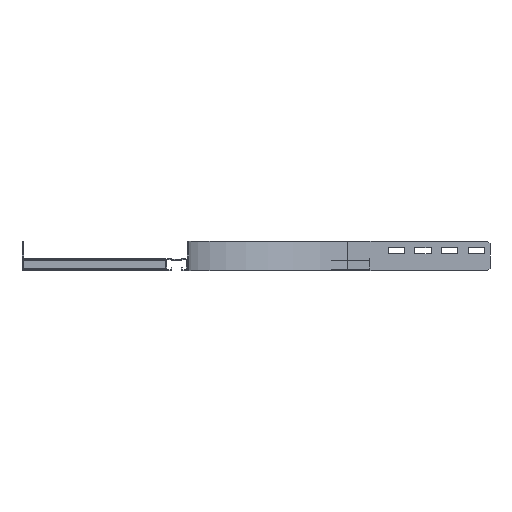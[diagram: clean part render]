
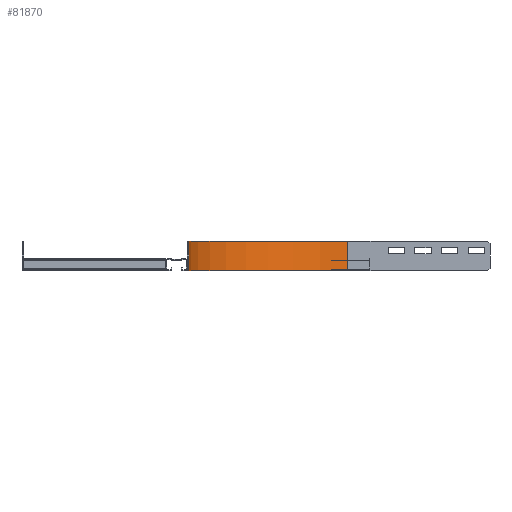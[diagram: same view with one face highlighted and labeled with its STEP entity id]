
A CAD part, left-side view. The second image highlights one B-rep face of the part: STEP entity #81870.
In plain terms, the highlighted cylindrical face has radius 297 mm (diameter 594 mm), a partial arc.
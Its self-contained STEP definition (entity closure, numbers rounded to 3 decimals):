
#69680=CARTESIAN_POINT('',(297.,-300.,-90.));
#69690=VERTEX_POINT('',#69680);
#69720=CARTESIAN_POINT('',(0.,-300.,-90.));
#69730=DIRECTION('',(0.,0.,-1.));
#69740=DIRECTION('',(-1.,0.,0.));
#69750=AXIS2_PLACEMENT_3D('',#69720,#69730,#69740);
#69760=CIRCLE('',#69750,297.);
#69770=CARTESIAN_POINT('',(0.,-3.,-90.));
#69780=VERTEX_POINT('',#69770);
#69790=EDGE_CURVE('',#69780,#69690,#69760,.T.);
#72200=CARTESIAN_POINT('',(0.,-3.,-145.));
#72210=VERTEX_POINT('',#72200);
#72240=CARTESIAN_POINT('',(0.,-300.,-145.));
#72250=DIRECTION('',(0.,0.,-1.));
#72260=DIRECTION('',(-1.,0.,0.));
#72270=AXIS2_PLACEMENT_3D('',#72240,#72250,#72260);
#72280=CIRCLE('',#72270,297.);
#72290=CARTESIAN_POINT('',(297.,-300.,-145.));
#72300=VERTEX_POINT('',#72290);
#72310=EDGE_CURVE('',#72210,#72300,#72280,.T.);
#76380=CARTESIAN_POINT('',(297.,-300.,0.));
#76390=DIRECTION('',(0.,0.,-1.));
#76400=VECTOR('',#76390,1.);
#76410=LINE('',#76380,#76400);
#76420=EDGE_CURVE('',#69690,#72300,#76410,.T.);
#77970=CARTESIAN_POINT('',(0.,-3.,0.));
#77980=DIRECTION('',(0.,0.,-1.));
#77990=VECTOR('',#77980,1.);
#78000=LINE('',#77970,#77990);
#78010=EDGE_CURVE('',#69780,#72210,#78000,.T.);
#81760=CARTESIAN_POINT('',(0.,-300.,0.));
#81770=DIRECTION('',(0.,0.,-1.));
#81780=DIRECTION('',(-1.,0.,0.));
#81790=AXIS2_PLACEMENT_3D('',#81760,#81770,#81780);
#81800=CYLINDRICAL_SURFACE('',#81790,297.);
#81810=ORIENTED_EDGE('',*,*,#69790,.F.);
#81820=ORIENTED_EDGE('',*,*,#76420,.F.);
#81830=ORIENTED_EDGE('',*,*,#72310,.T.);
#81840=ORIENTED_EDGE('',*,*,#78010,.T.);
#81850=EDGE_LOOP('',(#81840,#81830,#81820,#81810));
#81860=FACE_OUTER_BOUND('',#81850,.T.);
#81870=ADVANCED_FACE('',(#81860),#81800,.F.);
